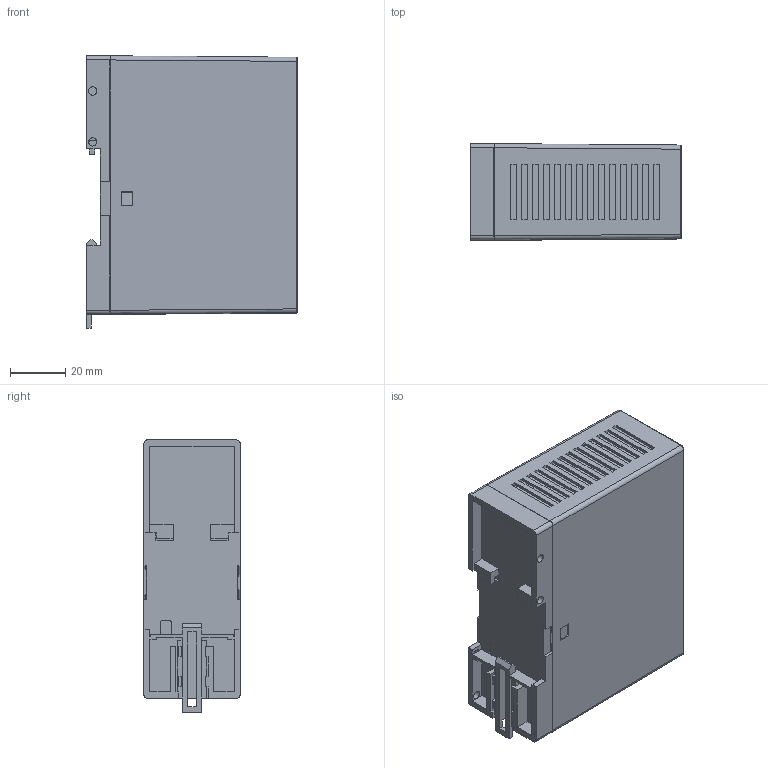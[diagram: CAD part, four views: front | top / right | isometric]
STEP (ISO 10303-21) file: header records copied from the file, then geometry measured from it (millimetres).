
FILE_DESCRIPTION(/* description */ (''),/* implementation_level */ '2;1');
FILE_NAME(/* name */ 'X:\0-inventor\0-3d-Teile\PC-Compo\solids\CU\CU8880-0010\Ausgabe\CU8880-0010_V0125.stp',/* time_stamp */ '2021-01-25T13:12:05+01:00',/* author */ ('simonejochim'),/* organization */ ('Design-AG'),/* preprocessor_version */ 'ST-DEVELOPER v18.1',/* originating_system */ 'Autodesk Inventor 2021',/* authorisation */ '');
FILE_SCHEMA (('AUTOMOTIVE_DESIGN { 1 0 10303 214 3 1 1 }'));
Length unit declared in the file: millimetre
Products named in the file (1): Bauteil8
Bounding box: 76.6 x 35 x 99 mm (x, y, z)
Volume: 229883.2 mm3; surface area: 34925.2 mm2
Topology: 1 solids, 21 shells, 587 faces, 1491 edges, 976 vertices
Faces by surface type: plane 496, cylinder 87, bspline 4
Full cylindrical faces by diameter (mm): 3 x4, 3.2 x3
Entity records: 18116 total; most frequent: CARTESIAN_POINT 3131, ORIENTED_EDGE 2958, DIRECTION 2845, EDGE_CURVE 1479, LINE 1277, VECTOR 1277, VERTEX_POINT 970, AXIS2_PLACEMENT_3D 784
